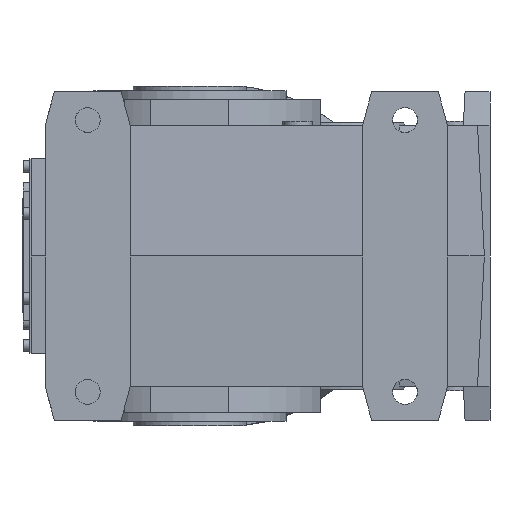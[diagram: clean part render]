
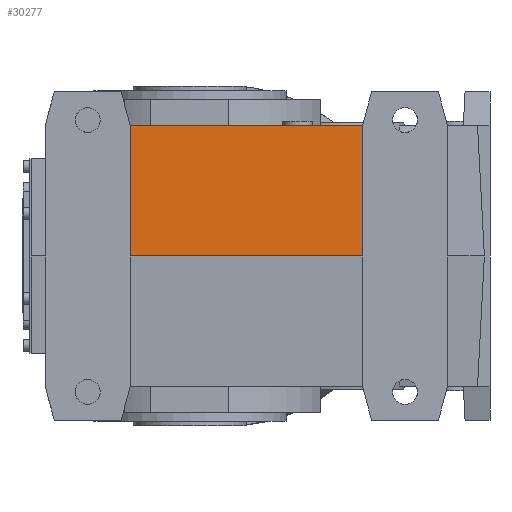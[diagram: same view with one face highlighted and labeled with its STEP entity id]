
A CAD part, left-side view. The second image highlights one B-rep face of the part: STEP entity #30277.
In plain terms, the highlighted planar face has unit normal (-0.999, 0, 0.052) as drawn and (0.999, 0, -0.052) by its records, which use the part's own axes.
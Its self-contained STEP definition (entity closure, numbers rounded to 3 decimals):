
#24133 = VERTEX_POINT('',#24134);
#24134 = CARTESIAN_POINT('',(-148.973,52.5,115.));
#24140 = EDGE_CURVE('',#24133,#24141,#24143,.T.);
#24141 = VERTEX_POINT('',#24142);
#24142 = CARTESIAN_POINT('',(-148.973,-152.5,115.));
#24143 = LINE('',#24144,#24145);
#24144 = CARTESIAN_POINT('',(-148.973,-34.,115.));
#24145 = VECTOR('',#24146,1.);
#24146 = DIRECTION('',(0.,-1.,0.));
#30277 = ADVANCED_FACE('',(#30278),#30303,.T.);
#30278 = FACE_BOUND('',#30279,.F.);
#30279 = EDGE_LOOP('',(#30280,#30288,#30296,#30302));
#30280 = ORIENTED_EDGE('',*,*,#30281,.T.);
#30281 = EDGE_CURVE('',#24133,#30282,#30284,.T.);
#30282 = VERTEX_POINT('',#30283);
#30283 = CARTESIAN_POINT('',(-155.,52.5,0.));
#30284 = LINE('',#30285,#30286);
#30285 = CARTESIAN_POINT('',(-147.401,52.5,145.));
#30286 = VECTOR('',#30287,1.);
#30287 = DIRECTION('',(-0.052,0.,-0.999));
#30288 = ORIENTED_EDGE('',*,*,#30289,.F.);
#30289 = EDGE_CURVE('',#30290,#30282,#30292,.T.);
#30290 = VERTEX_POINT('',#30291);
#30291 = CARTESIAN_POINT('',(-155.,-152.5,0.));
#30292 = LINE('',#30293,#30294);
#30293 = CARTESIAN_POINT('',(-155.,-152.5,0.));
#30294 = VECTOR('',#30295,1.);
#30295 = DIRECTION('',(0.,1.,0.));
#30296 = ORIENTED_EDGE('',*,*,#30297,.F.);
#30297 = EDGE_CURVE('',#24141,#30290,#30298,.T.);
#30298 = LINE('',#30299,#30300);
#30299 = CARTESIAN_POINT('',(-147.401,-152.5,145.));
#30300 = VECTOR('',#30301,1.);
#30301 = DIRECTION('',(-0.052,0.,-0.999));
#30302 = ORIENTED_EDGE('',*,*,#24140,.F.);
#30303 = PLANE('',#30304);
#30304 = AXIS2_PLACEMENT_3D('',#30305,#30306,#30307);
#30305 = CARTESIAN_POINT('',(-147.401,-152.5,145.));
#30306 = DIRECTION('',(0.999,0.,-0.052));
#30307 = DIRECTION('',(-0.052,0.,-0.999));
